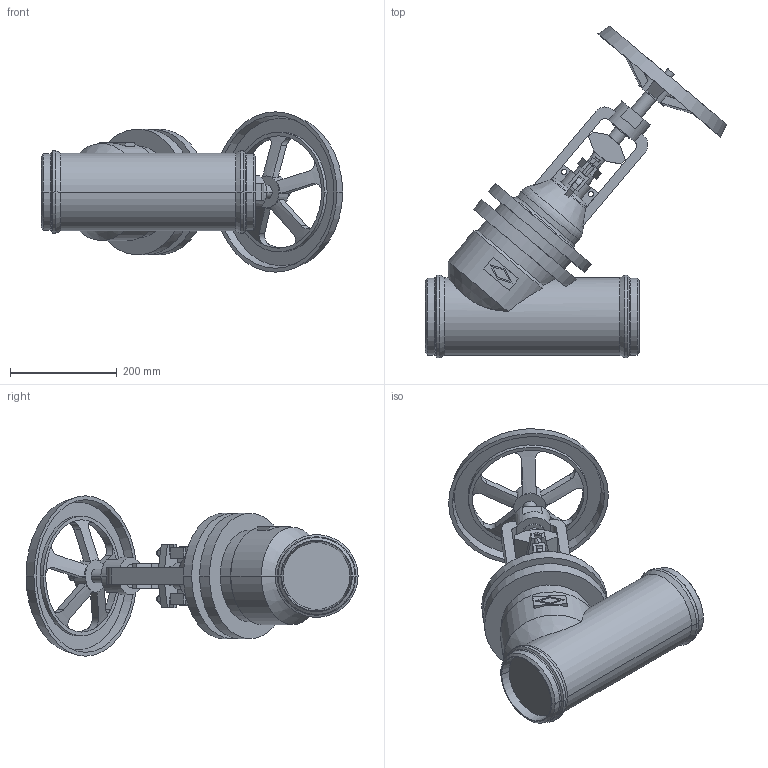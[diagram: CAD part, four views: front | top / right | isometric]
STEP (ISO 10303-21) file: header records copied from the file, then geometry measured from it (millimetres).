
FILE_DESCRIPTION(('OneSpaceDesigner STEP Export'),'2;1');
FILE_NAME('c000004366.stp','2010-05-11T 8:14:23',(''),(''),'OneSpace Designer STEP processor for AP214 (Solid Model)','OneSpace Modeling 15.50B 03-Nov-2007 (C) CoCreate Software GmbH','');
FILE_SCHEMA(('AUTOMOTIVE_DESIGN { 1 0 10303 214 1 1 1 1 }'));
Length unit declared in the file: millimetre
Products named in the file (1): 1
Bounding box: 563.63 x 621.12 x 300 mm (x, y, z)
Volume: 13013409.9 mm3; surface area: 681404.1 mm2
Topology: 1 solids, 1 shells, 290 faces, 745 edges, 477 vertices
Faces by surface type: plane 145, cylinder 87, cone 40, torus 18
Entity records: 11071 total; most frequent: CARTESIAN_POINT 2162, ORIENTED_EDGE 1490, DIRECTION 1209, EDGE_CURVE 745, VERTEX_POINT 477, AXIS2_PLACEMENT_3D 406, VECTOR 397, LINE 397
